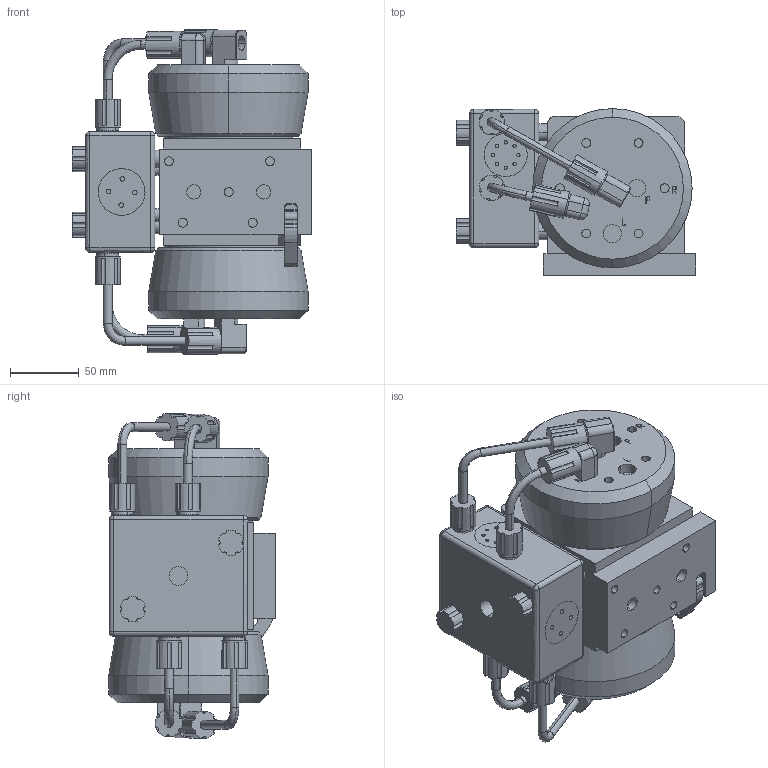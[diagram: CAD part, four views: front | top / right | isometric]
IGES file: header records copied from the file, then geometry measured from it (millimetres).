
Start section: SolidWorks IGES file using analytic representation for surfaces
Global section: file name: S:\Product Visuals\FILES FOR PUBLICATION\SOLID MODELS FOR PUBLICATION\psh030\psh030-solid-model.IGS; native system: SolidWorks 2012; preprocessor: SolidWorks 2012; author: Rachel.Dressel; date: 121126.134338; units: inch
Bounding box: 174.65 x 121.36 x 236.58 mm (x, y, z)
Volume: 2430976.8 mm3; surface area: 184016 mm2
Topology: 1 solids, 2 shells, 895 faces, 2260 edges, 1470 vertices
Faces by surface type: plane 413, revolution 394, bspline 88
